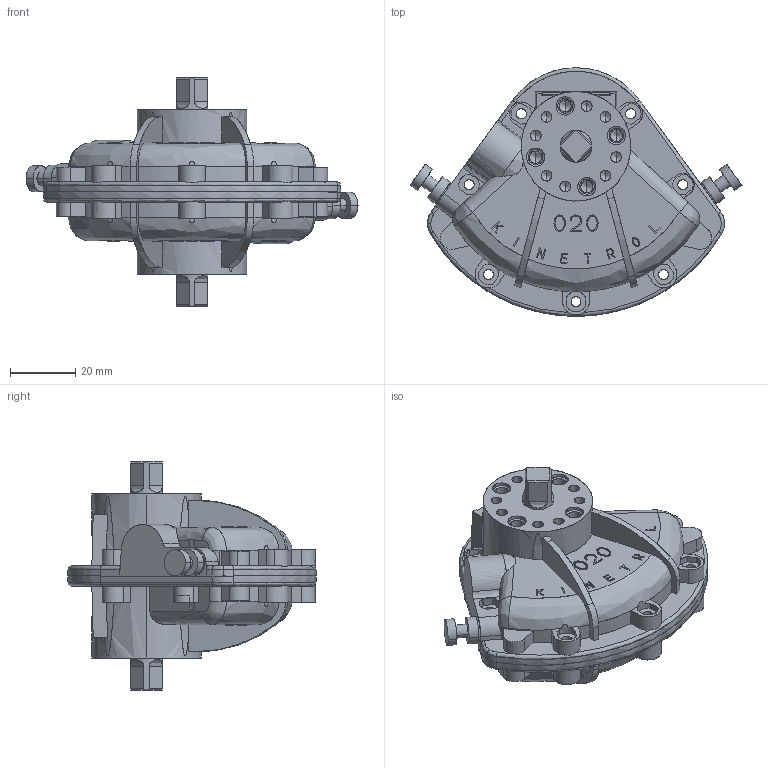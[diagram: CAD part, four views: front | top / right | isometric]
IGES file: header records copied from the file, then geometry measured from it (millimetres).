
Start section: Comment
Global section: file name: 024-100 IGES.igs; native system:  By UGS Corp.; preprocessor: XPlus GENERIC/IGES 3.0; author: Author; organization: Title; date: 20100625.122051; units: millimetre
Bounding box: 101.61 x 76.05 x 70 mm (x, y, z)
Surface area: 24456.2 mm2 (no closed solid volume)
Topology: 0 solids, 0 shells, 840 faces, 4428 edges, 4380 vertices
Faces by surface type: bspline 840
